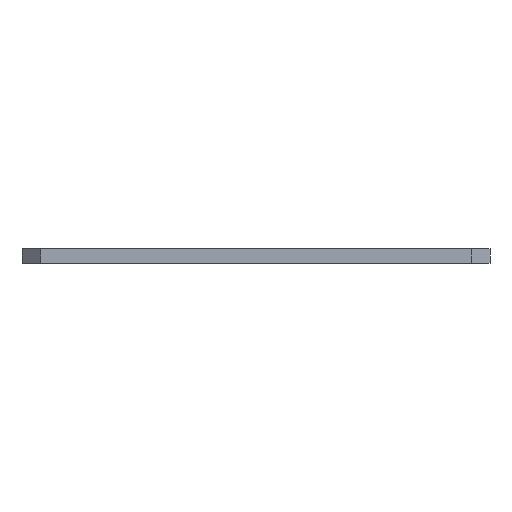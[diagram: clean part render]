
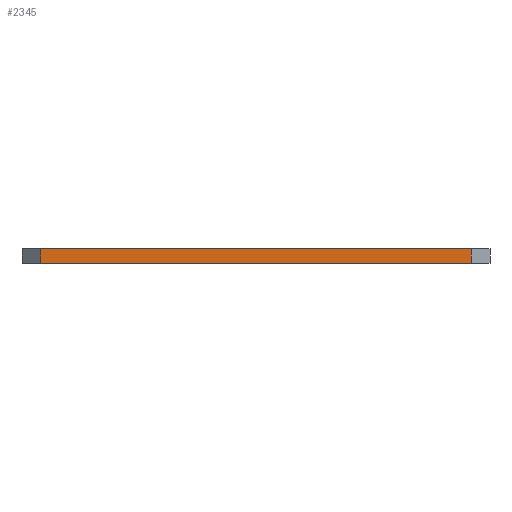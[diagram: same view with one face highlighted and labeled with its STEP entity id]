
A CAD part, left-side view. The second image highlights one B-rep face of the part: STEP entity #2345.
In plain terms, the highlighted planar face has unit normal (-1, 0, 0).
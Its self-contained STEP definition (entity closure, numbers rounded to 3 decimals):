
#152 = VERTEX_POINT('',#153);
#153 = CARTESIAN_POINT('',(0.,-2.,0.));
#159 = EDGE_CURVE('',#160,#152,#162,.T.);
#160 = VERTEX_POINT('',#161);
#161 = CARTESIAN_POINT('',(0.,-48.,0.));
#162 = LINE('',#163,#164);
#163 = CARTESIAN_POINT('',(0.,-48.,0.));
#164 = VECTOR('',#165,1.);
#165 = DIRECTION('',(0.,1.,0.));
#1222 = VERTEX_POINT('',#1223);
#1223 = CARTESIAN_POINT('',(0.,-2.,1.516));
#1229 = EDGE_CURVE('',#1230,#1222,#1232,.T.);
#1230 = VERTEX_POINT('',#1231);
#1231 = CARTESIAN_POINT('',(0.,-48.,1.516));
#1232 = LINE('',#1233,#1234);
#1233 = CARTESIAN_POINT('',(0.,-48.,1.516));
#1234 = VECTOR('',#1235,1.);
#1235 = DIRECTION('',(0.,1.,0.));
#2315 = EDGE_CURVE('',#152,#1222,#2316,.T.);
#2316 = LINE('',#2317,#2318);
#2317 = CARTESIAN_POINT('',(0.,-2.,0.));
#2318 = VECTOR('',#2319,1.);
#2319 = DIRECTION('',(0.,0.,1.));
#2345 = ADVANCED_FACE('',(#2346),#2357,.T.);
#2346 = FACE_BOUND('',#2347,.T.);
#2347 = EDGE_LOOP('',(#2348,#2354,#2355,#2356));
#2348 = ORIENTED_EDGE('',*,*,#2349,.T.);
#2349 = EDGE_CURVE('',#160,#1230,#2350,.T.);
#2350 = LINE('',#2351,#2352);
#2351 = CARTESIAN_POINT('',(0.,-48.,0.));
#2352 = VECTOR('',#2353,1.);
#2353 = DIRECTION('',(0.,0.,1.));
#2354 = ORIENTED_EDGE('',*,*,#1229,.T.);
#2355 = ORIENTED_EDGE('',*,*,#2315,.F.);
#2356 = ORIENTED_EDGE('',*,*,#159,.F.);
#2357 = PLANE('',#2358);
#2358 = AXIS2_PLACEMENT_3D('',#2359,#2360,#2361);
#2359 = CARTESIAN_POINT('',(0.,-48.,0.));
#2360 = DIRECTION('',(-1.,0.,0.));
#2361 = DIRECTION('',(0.,1.,0.));
